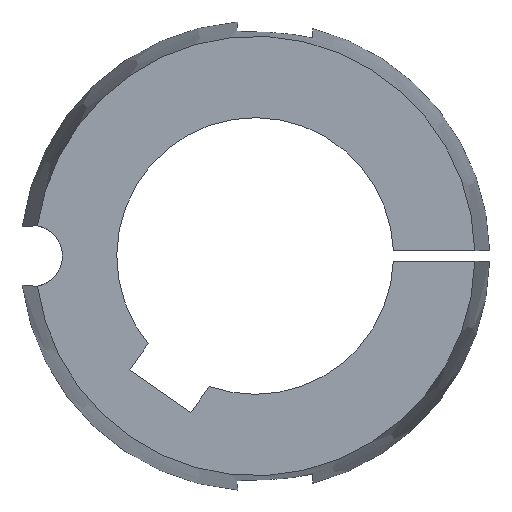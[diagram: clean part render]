
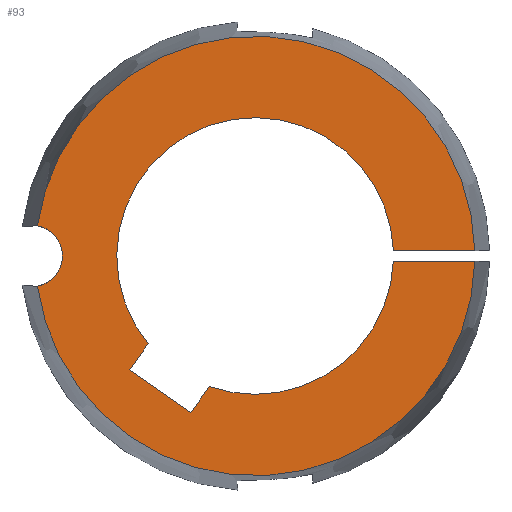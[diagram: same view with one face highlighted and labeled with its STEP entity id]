
A CAD part, left-side view. The second image highlights one B-rep face of the part: STEP entity #93.
In plain terms, the highlighted planar face has unit normal (-1, 0, 0).
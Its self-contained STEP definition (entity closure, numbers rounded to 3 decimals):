
#93 = ADVANCED_FACE( '', ( #136 ), #137, .T. );
#136 = FACE_OUTER_BOUND( '', #184, .T. );
#137 = PLANE( '', #185 );
#184 = EDGE_LOOP( '', ( #346, #347, #348, #349, #350, #351, #352, #353, #354, #355, #356, #357 ) );
#185 = AXIS2_PLACEMENT_3D( '', #358, #359, #360 );
#346 = ORIENTED_EDGE( '', *, *, #439, .T. );
#347 = ORIENTED_EDGE( '', *, *, #403, .T. );
#348 = ORIENTED_EDGE( '', *, *, #428, .T. );
#349 = ORIENTED_EDGE( '', *, *, #449, .T. );
#350 = ORIENTED_EDGE( '', *, *, #451, .T. );
#351 = ORIENTED_EDGE( '', *, *, #452, .T. );
#352 = ORIENTED_EDGE( '', *, *, #453, .T. );
#353 = ORIENTED_EDGE( '', *, *, #454, .T. );
#354 = ORIENTED_EDGE( '', *, *, #455, .T. );
#355 = ORIENTED_EDGE( '', *, *, #399, .T. );
#356 = ORIENTED_EDGE( '', *, *, #450, .T. );
#357 = ORIENTED_EDGE( '', *, *, #436, .T. );
#358 = CARTESIAN_POINT( '', ( -31.8, 16.388, 0. ) );
#359 = DIRECTION( '', ( -1., 0., 0. ) );
#360 = DIRECTION( '', ( 0., 1., 0. ) );
#399 = EDGE_CURVE( '', #461, #465, #467, .T. );
#403 = EDGE_CURVE( '', #469, #473, #475, .T. );
#428 = EDGE_CURVE( '', #473, #516, #518, .T. );
#436 = EDGE_CURVE( '', #530, #528, #531, .T. );
#439 = EDGE_CURVE( '', #528, #469, #535, .T. );
#449 = EDGE_CURVE( '', #516, #549, #551, .T. );
#450 = EDGE_CURVE( '', #465, #530, #552, .T. );
#451 = EDGE_CURVE( '', #549, #553, #554, .T. );
#452 = EDGE_CURVE( '', #553, #555, #556, .T. );
#453 = EDGE_CURVE( '', #555, #557, #558, .T. );
#454 = EDGE_CURVE( '', #557, #559, #560, .T. );
#455 = EDGE_CURVE( '', #559, #461, #561, .T. );
#461 = VERTEX_POINT( '', #567 );
#465 = VERTEX_POINT( '', #572 );
#467 = CIRCLE( '', #575, 20.637 );
#469 = VERTEX_POINT( '', #577 );
#473 = VERTEX_POINT( '', #582 );
#475 = CIRCLE( '', #593, 4.6 );
#516 = VERTEX_POINT( '', #776 );
#518 = CIRCLE( '', #787, 32.776 );
#528 = VERTEX_POINT( '', #839 );
#530 = VERTEX_POINT( '', #850 );
#531 = CIRCLE( '', #851, 32.776 );
#535 = CIRCLE( '', #864, 4.6 );
#549 = VERTEX_POINT( '', #883 );
#551 = LINE( '', #886, #887 );
#552 = LINE( '', #888, #889 );
#553 = VERTEX_POINT( '', #890 );
#554 = CIRCLE( '', #891, 20.637 );
#555 = VERTEX_POINT( '', #892 );
#556 = LINE( '', #893, #894 );
#557 = VERTEX_POINT( '', #895 );
#558 = LINE( '', #896, #897 );
#559 = VERTEX_POINT( '', #898 );
#560 = LINE( '', #899, #900 );
#561 = CIRCLE( '', #901, 20.637 );
#567 = CARTESIAN_POINT( '', ( -31.8, -15.952, 13.094 ) );
#572 = CARTESIAN_POINT( '', ( -31.8, -20.624, 0.75 ) );
#575 = AXIS2_PLACEMENT_3D( '', #915, #916, #917 );
#577 = CARTESIAN_POINT( '', ( -31.8, 28.74, 0. ) );
#582 = CARTESIAN_POINT( '', ( -31.8, 32.464, -4.516 ) );
#593 = AXIS2_PLACEMENT_3D( '', #922, #923, #924 );
#776 = CARTESIAN_POINT( '', ( -31.8, -32.768, -0.75 ) );
#787 = AXIS2_PLACEMENT_3D( '', #958, #959, #960 );
#839 = CARTESIAN_POINT( '', ( -31.8, 32.464, 4.516 ) );
#850 = CARTESIAN_POINT( '', ( -31.8, -32.768, 0.75 ) );
#851 = AXIS2_PLACEMENT_3D( '', #973, #974, #975 );
#864 = AXIS2_PLACEMENT_3D( '', #979, #980, #981 );
#883 = CARTESIAN_POINT( '', ( -31.8, -20.624, -0.75 ) );
#886 = CARTESIAN_POINT( '', ( -31.8, -9.306, -0.75 ) );
#887 = VECTOR( '', #997, 1. );
#888 = CARTESIAN_POINT( '', ( -31.8, 8.194, 0.75 ) );
#889 = VECTOR( '', #998, 1. );
#890 = CARTESIAN_POINT( '', ( -31.8, 6.849, -19.468 ) );
#891 = AXIS2_PLACEMENT_3D( '', #999, #1000, #1001 );
#892 = CARTESIAN_POINT( '', ( -31.8, 9.562, -23.343 ) );
#893 = CARTESIAN_POINT( '', ( -31.8, 3.844, -15.177 ) );
#894 = VECTOR( '', #1002, 1. );
#895 = CARTESIAN_POINT( '', ( -31.8, 18.665, -16.969 ) );
#896 = CARTESIAN_POINT( '', ( -31.8, 17.336, -17.9 ) );
#897 = VECTOR( '', #1003, 1. );
#898 = CARTESIAN_POINT( '', ( -31.8, 15.952, -13.094 ) );
#899 = CARTESIAN_POINT( '', ( -31.8, 14.304, -10.741 ) );
#900 = VECTOR( '', #1004, 1. );
#901 = AXIS2_PLACEMENT_3D( '', #1005, #1006, #1007 );
#915 = CARTESIAN_POINT( '', ( -31.8, 0., 0. ) );
#916 = DIRECTION( '', ( 1., 0., 0. ) );
#917 = DIRECTION( '', ( 0., 0.773, -0.634 ) );
#922 = CARTESIAN_POINT( '', ( -31.8, 33.34, 0. ) );
#923 = DIRECTION( '', ( 1., 0., 0. ) );
#924 = DIRECTION( '', ( 0., 1., 0. ) );
#958 = CARTESIAN_POINT( '', ( -31.8, 0., 0. ) );
#959 = DIRECTION( '', ( -1., 0., 0. ) );
#960 = DIRECTION( '', ( 0., 1., 0. ) );
#973 = CARTESIAN_POINT( '', ( -31.8, 0., 0. ) );
#974 = DIRECTION( '', ( -1., 0., 0. ) );
#975 = DIRECTION( '', ( 0., 1., 0. ) );
#979 = CARTESIAN_POINT( '', ( -31.8, 33.34, 0. ) );
#980 = DIRECTION( '', ( 1., 0., 0. ) );
#981 = DIRECTION( '', ( 0., 1., 0. ) );
#997 = DIRECTION( '', ( 0., 1., 0. ) );
#998 = DIRECTION( '', ( 0., -1., 0. ) );
#999 = CARTESIAN_POINT( '', ( -31.8, 0., 0. ) );
#1000 = DIRECTION( '', ( 1., 0., 0. ) );
#1001 = DIRECTION( '', ( 0., 0.773, -0.634 ) );
#1002 = DIRECTION( '', ( 0., 0.574, -0.819 ) );
#1003 = DIRECTION( '', ( 0., 0.819, 0.574 ) );
#1004 = DIRECTION( '', ( 0., -0.574, 0.819 ) );
#1005 = CARTESIAN_POINT( '', ( -31.8, 0., 0. ) );
#1006 = DIRECTION( '', ( 1., 0., 0. ) );
#1007 = DIRECTION( '', ( 0., 0.773, -0.634 ) );
